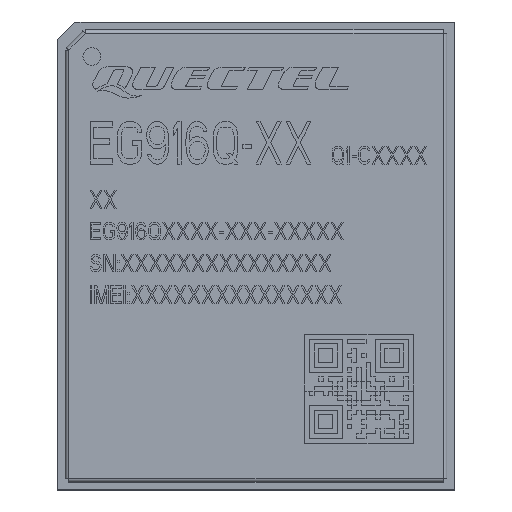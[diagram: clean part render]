
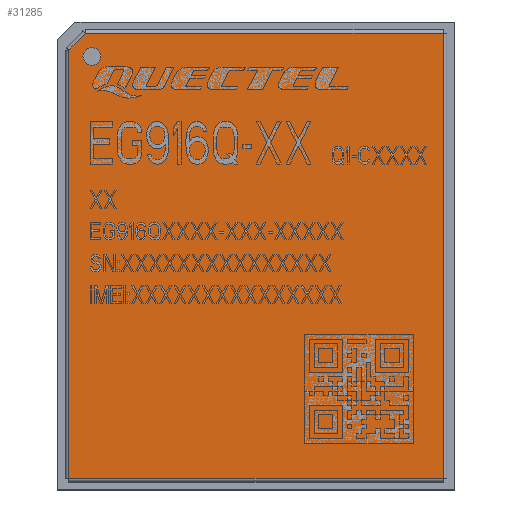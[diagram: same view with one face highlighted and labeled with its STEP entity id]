
A CAD part, top view. The second image highlights one B-rep face of the part: STEP entity #31285.
In plain terms, the highlighted planar face has unit normal (0, 0, 1).
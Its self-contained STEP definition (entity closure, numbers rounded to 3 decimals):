
#30558=CARTESIAN_POINT('',(-9.3,11.297,0.));
#30559=DIRECTION('',(0.,0.,1.));
#30560=DIRECTION('',(-1.,0.,0.));
#30561=AXIS2_PLACEMENT_3D('',#30558,#30559,#30560);
#30566=CARTESIAN_POINT('',(-9.3,11.297,0.));
#30567=DIRECTION('',(0.,0.,1.));
#30568=DIRECTION('',(1.,0.,0.));
#30569=AXIS2_PLACEMENT_3D('',#30566,#30567,#30568);
#30589=DIRECTION('',(0.,-1.,0.));
#30590=VECTOR('',#30589,25.2);
#30591=CARTESIAN_POINT('',(10.6,12.597,0.));
#30592=LINE('',#30591,#30590);
#30675=DIRECTION('',(1.,0.,0.));
#30676=VECTOR('',#30675,20.259);
#30677=CARTESIAN_POINT('',(-9.659,12.597,0.));
#30678=LINE('',#30677,#30676);
#30761=DIRECTION('',(0.707,0.707,0.));
#30762=VECTOR('',#30761,1.331);
#30763=CARTESIAN_POINT('',(-10.6,11.656,0.));
#30764=LINE('',#30763,#30762);
#30847=DIRECTION('',(0.,1.,0.));
#30848=VECTOR('',#30847,24.259);
#30849=CARTESIAN_POINT('',(-10.6,-12.603,0.));
#30850=LINE('',#30849,#30848);
#30933=DIRECTION('',(-1.,0.,0.));
#30934=VECTOR('',#30933,21.2);
#30935=CARTESIAN_POINT('',(10.6,-12.603,0.));
#30936=LINE('',#30935,#30934);
#31182=CARTESIAN_POINT('',(-10.6,11.656,0.));
#31183=VERTEX_POINT('',#31182);
#31184=CARTESIAN_POINT('',(-10.6,-12.603,0.));
#31185=VERTEX_POINT('',#31184);
#31202=CARTESIAN_POINT('',(10.6,-12.603,0.));
#31203=VERTEX_POINT('',#31202);
#31218=CARTESIAN_POINT('',(10.6,12.597,0.));
#31219=VERTEX_POINT('',#31218);
#31234=CARTESIAN_POINT('',(-9.659,12.597,0.));
#31235=VERTEX_POINT('',#31234);
#31254=CARTESIAN_POINT('',(-9.8,11.297,0.));
#31255=CARTESIAN_POINT('',(-8.8,11.297,0.));
#31256=VERTEX_POINT('',#31254);
#31257=VERTEX_POINT('',#31255);
#31262=CARTESIAN_POINT('',(0.,0.,0.));
#31263=DIRECTION('',(0.,0.,1.));
#31264=DIRECTION('',(1.,0.,0.));
#31265=AXIS2_PLACEMENT_3D('',#31262,#31263,#31264);
#31266=PLANE('',#31265);
#31268=ORIENTED_EDGE('',*,*,#31267,.T.);
#31270=ORIENTED_EDGE('',*,*,#31269,.T.);
#31272=ORIENTED_EDGE('',*,*,#31271,.T.);
#31274=ORIENTED_EDGE('',*,*,#31273,.T.);
#31276=ORIENTED_EDGE('',*,*,#31275,.T.);
#31277=EDGE_LOOP('',(#31268,#31270,#31272,#31274,#31276));
#31278=FACE_OUTER_BOUND('',#31277,.F.);
#31280=ORIENTED_EDGE('',*,*,#31279,.T.);
#31282=ORIENTED_EDGE('',*,*,#31281,.T.);
#31283=EDGE_LOOP('',(#31280,#31282));
#31284=FACE_BOUND('',#31283,.F.);
#30562=CIRCLE('',#30561,0.5);
#30570=CIRCLE('',#30569,0.5);
#31267=EDGE_CURVE('',#31219,#31203,#30592,.T.);
#31269=EDGE_CURVE('',#31203,#31185,#30936,.T.);
#31271=EDGE_CURVE('',#31185,#31183,#30850,.T.);
#31273=EDGE_CURVE('',#31183,#31235,#30764,.T.);
#31275=EDGE_CURVE('',#31235,#31219,#30678,.T.);
#31279=EDGE_CURVE('',#31256,#31257,#30562,.T.);
#31281=EDGE_CURVE('',#31257,#31256,#30570,.T.);
#31285=ADVANCED_FACE('',(#31278,#31284),#31266,.T.);
